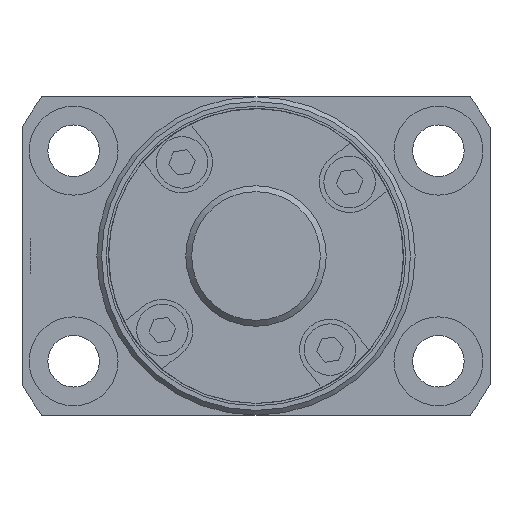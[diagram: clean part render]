
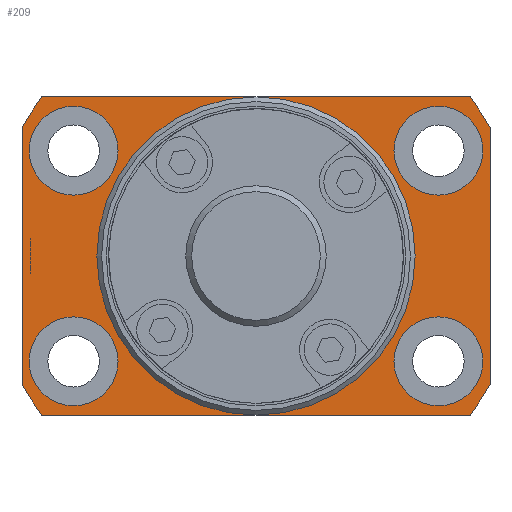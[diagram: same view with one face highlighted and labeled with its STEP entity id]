
A CAD part, left-side view. The second image highlights one B-rep face of the part: STEP entity #209.
In plain terms, the highlighted planar face has unit normal (-1, 0, 0).
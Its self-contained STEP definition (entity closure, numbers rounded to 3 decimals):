
#209 = ADVANCED_FACE( '', ( #473, #474, #475, #476, #477, #478 ), #479, .F. );
#473 = FACE_OUTER_BOUND( '', #835, .T. );
#474 = FACE_BOUND( '', #836, .T. );
#475 = FACE_BOUND( '', #837, .T. );
#476 = FACE_BOUND( '', #838, .T. );
#477 = FACE_BOUND( '', #839, .T. );
#478 = FACE_BOUND( '', #840, .T. );
#479 = PLANE( '', #841 );
#835 = EDGE_LOOP( '', ( #1283, #1284, #1285, #1286, #1287, #1288, #1289, #1290 ) );
#836 = EDGE_LOOP( '', ( #1291 ) );
#837 = EDGE_LOOP( '', ( #1292 ) );
#838 = EDGE_LOOP( '', ( #1293 ) );
#839 = EDGE_LOOP( '', ( #1294 ) );
#840 = EDGE_LOOP( '', ( #1295 ) );
#841 = AXIS2_PLACEMENT_3D( '', #1296, #1297, #1298 );
#1283 = ORIENTED_EDGE( '', *, *, #1934, .F. );
#1284 = ORIENTED_EDGE( '', *, *, #1915, .F. );
#1285 = ORIENTED_EDGE( '', *, *, #1930, .F. );
#1286 = ORIENTED_EDGE( '', *, *, #1975, .F. );
#1287 = ORIENTED_EDGE( '', *, *, #1966, .F. );
#1288 = ORIENTED_EDGE( '', *, *, #1976, .F. );
#1289 = ORIENTED_EDGE( '', *, *, #1977, .F. );
#1290 = ORIENTED_EDGE( '', *, *, #1978, .F. );
#1291 = ORIENTED_EDGE( '', *, *, #1979, .T. );
#1292 = ORIENTED_EDGE( '', *, *, #1980, .T. );
#1293 = ORIENTED_EDGE( '', *, *, #1981, .T. );
#1294 = ORIENTED_EDGE( '', *, *, #1982, .T. );
#1295 = ORIENTED_EDGE( '', *, *, #1983, .T. );
#1296 = CARTESIAN_POINT( '', ( 16., 16.5, 0. ) );
#1297 = DIRECTION( '', ( 1., 0., 0. ) );
#1298 = DIRECTION( '', ( 0., 0., -1. ) );
#1915 = EDGE_CURVE( '', #2232, #2233, #2234, .T. );
#1930 = EDGE_CURVE( '', #2258, #2232, #2259, .T. );
#1934 = EDGE_CURVE( '', #2233, #2264, #2265, .T. );
#1966 = EDGE_CURVE( '', #2316, #2317, #2318, .T. );
#1975 = EDGE_CURVE( '', #2317, #2258, #2331, .T. );
#1976 = EDGE_CURVE( '', #2332, #2316, #2333, .T. );
#1977 = EDGE_CURVE( '', #2334, #2332, #2335, .T. );
#1978 = EDGE_CURVE( '', #2264, #2334, #2336, .T. );
#1979 = EDGE_CURVE( '', #2337, #2337, #2338, .T. );
#1980 = EDGE_CURVE( '', #2339, #2339, #2340, .T. );
#1981 = EDGE_CURVE( '', #2341, #2341, #2342, .T. );
#1982 = EDGE_CURVE( '', #2343, #2343, #2344, .T. );
#1983 = EDGE_CURVE( '', #2345, #2345, #2346, .T. );
#2232 = VERTEX_POINT( '', #2680 );
#2233 = VERTEX_POINT( '', #2681 );
#2234 = LINE( '', #2682, #2683 );
#2258 = VERTEX_POINT( '', #2715 );
#2259 = CIRCLE( '', #2716, 28.5 );
#2264 = VERTEX_POINT( '', #2722 );
#2265 = CIRCLE( '', #2723, 28.5 );
#2316 = VERTEX_POINT( '', #2788 );
#2317 = VERTEX_POINT( '', #2789 );
#2318 = CIRCLE( '', #2790, 28.5 );
#2331 = LINE( '', #2808, #2809 );
#2332 = VERTEX_POINT( '', #2810 );
#2333 = LINE( '', #2811, #2812 );
#2334 = VERTEX_POINT( '', #2813 );
#2335 = CIRCLE( '', #2814, 28.5 );
#2336 = LINE( '', #2815, #2816 );
#2337 = VERTEX_POINT( '', #2817 );
#2338 = CIRCLE( '', #2818, 4.75 );
#2339 = VERTEX_POINT( '', #2819 );
#2340 = CIRCLE( '', #2820, 4.75 );
#2341 = VERTEX_POINT( '', #2821 );
#2342 = CIRCLE( '', #2822, 4.75 );
#2343 = VERTEX_POINT( '', #2823 );
#2344 = CIRCLE( '', #2824, 4.75 );
#2345 = VERTEX_POINT( '', #2825 );
#2346 = CIRCLE( '', #2826, 16.5 );
#2680 = CARTESIAN_POINT( '', ( 16., 25., -13.684 ) );
#2681 = CARTESIAN_POINT( '', ( 16., 25., 13.684 ) );
#2682 = CARTESIAN_POINT( '', ( 16., 25., -13.684 ) );
#2683 = VECTOR( '', #3234, 1000. );
#2715 = CARTESIAN_POINT( '', ( 16., 22.875, -17. ) );
#2716 = AXIS2_PLACEMENT_3D( '', #3252, #3253, #3254 );
#2722 = CARTESIAN_POINT( '', ( 16., 22.875, 17. ) );
#2723 = AXIS2_PLACEMENT_3D( '', #3259, #3260, #3261 );
#2788 = CARTESIAN_POINT( '', ( 16., -25., -13.684 ) );
#2789 = CARTESIAN_POINT( '', ( 16., -22.875, -17. ) );
#2790 = AXIS2_PLACEMENT_3D( '', #3303, #3304, #3305 );
#2808 = CARTESIAN_POINT( '', ( 16., -22.875, -17. ) );
#2809 = VECTOR( '', #3314, 1000. );
#2810 = CARTESIAN_POINT( '', ( 16., -25., 13.684 ) );
#2811 = CARTESIAN_POINT( '', ( 16., -25., 13.684 ) );
#2812 = VECTOR( '', #3315, 1000. );
#2813 = CARTESIAN_POINT( '', ( 16., -22.875, 17. ) );
#2814 = AXIS2_PLACEMENT_3D( '', #3316, #3317, #3318 );
#2815 = CARTESIAN_POINT( '', ( 16., 22.875, 17. ) );
#2816 = VECTOR( '', #3319, 1000. );
#2817 = CARTESIAN_POINT( '', ( 16., -19.486, -16. ) );
#2818 = AXIS2_PLACEMENT_3D( '', #3320, #3321, #3322 );
#2819 = CARTESIAN_POINT( '', ( 16., -19.486, 6.5 ) );
#2820 = AXIS2_PLACEMENT_3D( '', #3323, #3324, #3325 );
#2821 = CARTESIAN_POINT( '', ( 16., 19.486, -16. ) );
#2822 = AXIS2_PLACEMENT_3D( '', #3326, #3327, #3328 );
#2823 = CARTESIAN_POINT( '', ( 16., 19.486, 6.5 ) );
#2824 = AXIS2_PLACEMENT_3D( '', #3329, #3330, #3331 );
#2825 = CARTESIAN_POINT( '', ( 16., 0., -16.5 ) );
#2826 = AXIS2_PLACEMENT_3D( '', #3332, #3333, #3334 );
#3234 = DIRECTION( '', ( 0., 0., 1. ) );
#3252 = CARTESIAN_POINT( '', ( 16., 0., 0. ) );
#3253 = DIRECTION( '', ( 1., 0., 0. ) );
#3254 = DIRECTION( '', ( 0., 0., -1. ) );
#3259 = CARTESIAN_POINT( '', ( 16., 0., 0. ) );
#3260 = DIRECTION( '', ( 1., 0., 0. ) );
#3261 = DIRECTION( '', ( 0., 0., -1. ) );
#3303 = CARTESIAN_POINT( '', ( 16., 0., 0. ) );
#3304 = DIRECTION( '', ( 1., 0., 0. ) );
#3305 = DIRECTION( '', ( 0., 0., -1. ) );
#3314 = DIRECTION( '', ( 0., 1., 0. ) );
#3315 = DIRECTION( '', ( 0., 0., -1. ) );
#3316 = CARTESIAN_POINT( '', ( 16., 0., 0. ) );
#3317 = DIRECTION( '', ( 1., 0., 0. ) );
#3318 = DIRECTION( '', ( 0., 0., -1. ) );
#3319 = DIRECTION( '', ( 0., -1., 0. ) );
#3320 = CARTESIAN_POINT( '', ( 16., -19.486, -11.25 ) );
#3321 = DIRECTION( '', ( 1., 0., 0. ) );
#3322 = DIRECTION( '', ( 0., 0., -1. ) );
#3323 = CARTESIAN_POINT( '', ( 16., -19.486, 11.25 ) );
#3324 = DIRECTION( '', ( 1., 0., 0. ) );
#3325 = DIRECTION( '', ( 0., 0., -1. ) );
#3326 = CARTESIAN_POINT( '', ( 16., 19.486, -11.25 ) );
#3327 = DIRECTION( '', ( 1., 0., 0. ) );
#3328 = DIRECTION( '', ( 0., 0., -1. ) );
#3329 = CARTESIAN_POINT( '', ( 16., 19.486, 11.25 ) );
#3330 = DIRECTION( '', ( 1., 0., 0. ) );
#3331 = DIRECTION( '', ( 0., 0., -1. ) );
#3332 = CARTESIAN_POINT( '', ( 16., 0., 0. ) );
#3333 = DIRECTION( '', ( 1., 0., 0. ) );
#3334 = DIRECTION( '', ( 0., 0., -1. ) );
